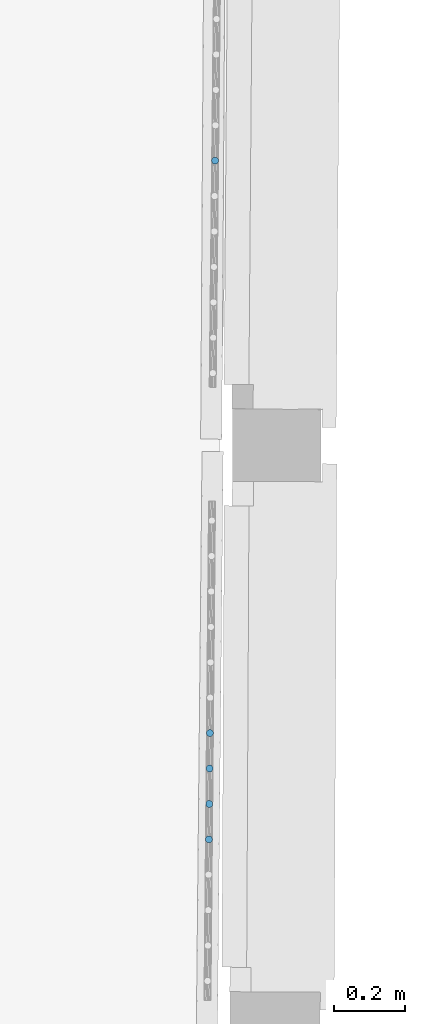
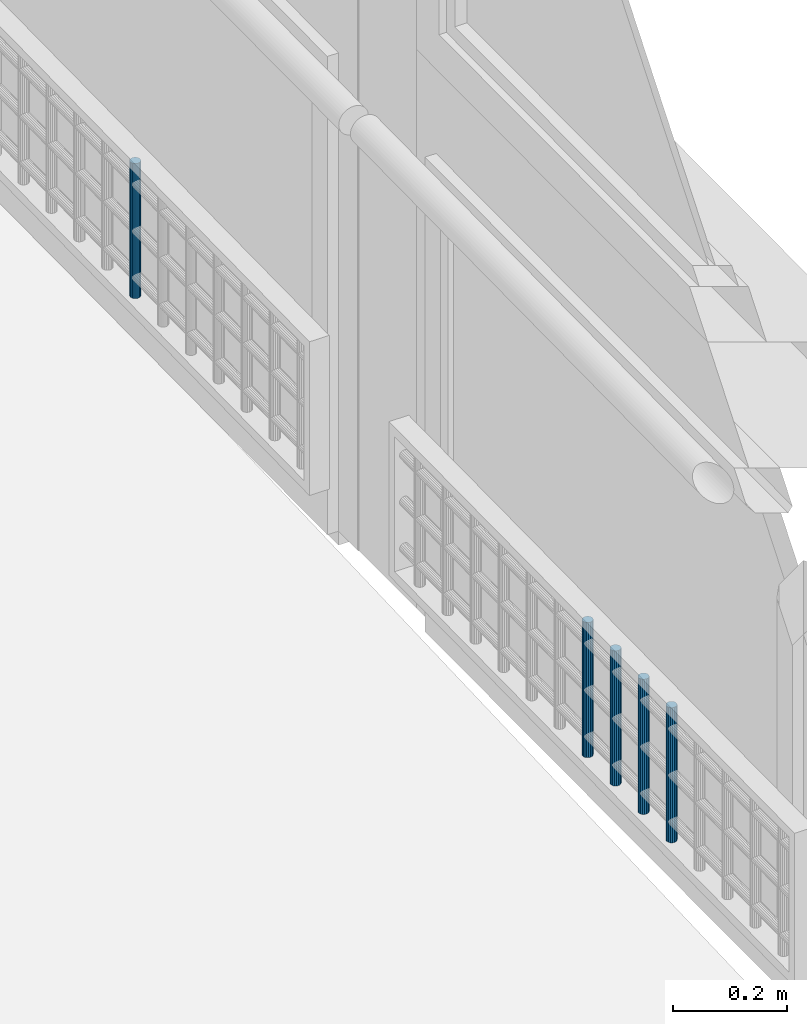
# One storey, part 35 of 97: 5 members, 2 elements without a shape of their own.
"""IFC2X3 building model written with IfcOpenShell, lengths in centimetres."""

from ifc_helpers import new_model, entity, si_unit, converted_unit, direction, frame, origin, origin_with_axes, place, context, subcontext, project, spatial, faceted_brep, material, type_object, element, aggregate, save


model = new_model("IFC2X3")

# Units and contexts
model_context = context("Model", 3, precision=0.0001, world=origin(), true_north=direction((0.225632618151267, 0.974212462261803, 0.0)))
body_context = subcontext(model_context, "Body", "Model", "MODEL_VIEW")
ifc_project = project(units=[si_unit("LENGTHUNIT", "METRE", prefix="CENTI"), si_unit("AREAUNIT", "SQUARE_METRE", prefix="CENTI"), si_unit("VOLUMEUNIT", "CUBIC_METRE", prefix="CENTI"), converted_unit("PLANEANGLEUNIT", "DEGREE", entity("IfcRatioMeasure", 0.0174532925), si_unit("PLANEANGLEUNIT", "RADIAN"), dimensions=[0, 0, 0, 0, 0, 0, 0])], contexts=[model_context])

# Site, building, storey
site_placement = place(None, origin_with_axes())
site = spatial("IfcSite", under=ifc_project, at=site_placement, Name="Default Site", CompositionType="ELEMENT")
building_placement = place(site_placement, origin_with_axes())
building = spatial("IfcBuilding", under=site, at=building_placement, Name="Default Building", CompositionType="ELEMENT")
storey_placement = place(building_placement, origin_with_axes())
storey = spatial("IfcBuildingStorey", under=building, at=storey_placement, Name="Rez-de-chaussée", CompositionType="ELEMENT", Elevation=0.0)

# Assembly, members
building_element_proxy_type = type_object("IfcBuildingElementProxyType", Name="Type Object", PredefinedType="NOTDEFINED")
assembly_1_placement = place(storey_placement, frame((1065.74726462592, -36.1039081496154, 11.9999999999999), z_axis=(0.0, 0.0, 1.0), x_axis=(-0.00922380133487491, -0.999957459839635, 0.0)))
assembly_1 = element("IfcElementAssembly", 1, at=assembly_1_placement, inside=storey, type_object=building_element_proxy_type, Name="Panneau 1702030", ObjectType="Precast panel", PredefinedType="USERDEFINED")
ifc_material = material(Name="Aluminium satiné")
member_1_placement = place(assembly_1_placement, frame((68.4396922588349, 0.342020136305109, 31.0000002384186), z_axis=(0.0, 0.0, 1.0), x_axis=(0.499995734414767, -0.866027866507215, 0.0)))
member_1 = element("IfcMember", 2, at=member_1_placement, material=ifc_material, Name="4294967105", context=body_context, shape_type="Brep", body=[
    faceted_brep([(9.99200722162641e-14, 6.66133814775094e-14, -5.55111512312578e-15), (-0.347295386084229, 0.0, -5.55111512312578e-15), (-0.673647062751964, -0.118784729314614, -5.55111512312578e-15), (-0.939691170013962, -0.342025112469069, -5.55111512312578e-15), (-1.11333888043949, -0.64279519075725, -5.55111512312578e-15), (-1.17364232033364, -0.984811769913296, -5.55111512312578e-15), (-1.11333370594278, -1.32683238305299, -5.55111512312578e-15), (-0.939683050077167, -1.62759729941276, -5.55111512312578e-15), (-0.673637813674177, -1.85083429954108, -5.55111512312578e-15), (-0.347285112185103, -1.96961451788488, -5.55111512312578e-15), (1.027389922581e-05, -1.96961451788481, -5.55111512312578e-15), (0.326361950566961, -1.85082978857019, -5.55111512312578e-15), (0.59240307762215, -1.62759456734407, -5.55111512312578e-15), (0.766050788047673, -1.32682448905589, -5.55111512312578e-15), (0.826357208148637, -0.984802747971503, -5.55111512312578e-15), (0.766048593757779, -0.642782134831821, -5.55111512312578e-15), (0.592397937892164, -0.342017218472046, -5.55111512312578e-15), (0.32635270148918, -0.118780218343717, -5.55111512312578e-15), (0.32635270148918, -0.118780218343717, -29.0000002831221), (0.592397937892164, -0.342017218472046, -29.0000002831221), (0.766048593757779, -0.642782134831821, -29.0000002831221), (0.826357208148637, -0.984802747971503, -29.0000002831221), (0.766050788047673, -1.32682448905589, -29.0000002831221), (0.59240307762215, -1.62759456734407, -29.0000002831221), (0.326361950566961, -1.85082978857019, -29.0000002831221), (1.027389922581e-05, -1.96961451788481, -29.0000002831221), (-0.347285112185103, -1.96961451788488, -29.0000002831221), (-0.673637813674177, -1.85083429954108, -29.0000002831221), (-0.939683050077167, -1.62759729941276, -29.0000002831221), (-1.11333370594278, -1.32683238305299, -29.0000002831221), (-1.17364232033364, -0.984811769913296, -29.0000002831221), (-1.11333888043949, -0.64279519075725, -29.0000002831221), (-0.939691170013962, -0.342025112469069, -29.0000002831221), (-0.673647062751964, -0.118784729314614, -29.0000002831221), (-0.347295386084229, 0.0, -29.0000002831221), (9.99200722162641e-14, 6.66133814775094e-14, -29.0000002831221), (0.592398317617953, -0.34201676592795, -5.55111512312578e-15), (0.592398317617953, -0.34201676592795, -29.0000002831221), (0.766047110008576, -0.642782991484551, -5.55111512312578e-15), (0.766047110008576, -0.642782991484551, -29.0000002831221), (0.826357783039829, -0.984802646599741, -5.55111512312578e-15), (0.826357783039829, -0.984802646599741, -29.0000002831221), (0.766051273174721, -1.32682457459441, -5.55111512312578e-15), (0.766051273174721, -1.32682457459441, -29.0000002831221), (0.592403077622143, -1.62759456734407, -5.55111512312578e-15), (0.592403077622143, -1.62759456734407, -29.0000002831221), (0.326362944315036, -1.8508309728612, -5.55111512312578e-15), (0.326362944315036, -1.8508309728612, -29.0000002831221), (1.0074238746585e-05, -1.96961396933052, -5.55111512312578e-15), (1.0074238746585e-05, -1.96961396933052, -29.0000002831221), (-0.347285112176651, -1.96961623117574, -5.55111512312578e-15), (-0.347285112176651, -1.96961623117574, -29.0000002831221), (-0.673637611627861, -1.85083374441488, -5.55111512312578e-15), (-0.673637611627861, -1.85083374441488, -29.0000002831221), (-0.939683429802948, -1.62759775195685, -5.55111512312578e-15), (-0.939683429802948, -1.62759775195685, -29.0000002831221), (-1.11333222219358, -1.32683152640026, -5.55111512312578e-15), (-1.11333222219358, -1.32683152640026, -29.0000002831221), (-1.17364289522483, -0.984811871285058, -5.55111512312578e-15), (-1.17364289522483, -0.984811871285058, -29.0000002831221), (-1.11333735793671, -0.642795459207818, -5.55111512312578e-15), (-1.11333735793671, -0.642795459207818, -29.0000002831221), (-0.939691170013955, -0.342025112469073, -5.55111512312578e-15), (-0.939691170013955, -0.342025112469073, -29.0000002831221), (-0.673646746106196, -0.11878510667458, -5.55111512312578e-15), (-0.673646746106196, -0.11878510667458, -29.0000002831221), (-0.347295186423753, -5.4855428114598e-07, -5.55111512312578e-15), (-0.347295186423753, -5.4855428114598e-07, -29.0000002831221), (-8.35215214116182e-12, 1.71329092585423e-06, -5.55111512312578e-15), (-8.35215214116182e-12, 1.71329092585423e-06, -29.0000002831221), (0.32635249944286, -0.118780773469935, -5.55111512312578e-15), (0.32635249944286, -0.118780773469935, -29.0000002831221)], [[[0, 1, 2, 3, 4, 5, 6, 7, 8, 9, 10, 11, 12, 13, 14, 15, 16, 17]], [[18, 19, 20, 21, 22, 23, 24, 25, 26, 27, 28, 29, 30, 31, 32, 33, 34, 35]], [[17, 36, 37, 18]], [[16, 38, 39, 19]], [[15, 40, 41, 20]], [[14, 42, 43, 21]], [[13, 44, 45, 22]], [[12, 46, 47, 23]], [[11, 48, 49, 24]], [[10, 50, 51, 25]], [[9, 52, 53, 26]], [[8, 54, 55, 27]], [[7, 56, 57, 28]], [[6, 58, 59, 29]], [[5, 60, 61, 30]], [[4, 62, 63, 31]], [[3, 64, 65, 32]], [[2, 66, 67, 33]], [[1, 68, 69, 34]], [[0, 70, 71, 35]]]),
])
member_2_placement = place(assembly_1_placement, frame((78.4396946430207, 0.342020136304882, 31.0000002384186), z_axis=(0.0, 0.0, 1.0), x_axis=(0.500008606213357, -0.866020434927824, 0.0)))
member_2 = element("IfcMember", 3, at=member_2_placement, material=ifc_material, Name="4294967104", context=body_context, shape_type="Brep", body=[
    faceted_brep([(1.83186799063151e-13, 2.22044604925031e-14, -5.55111512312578e-15), (-0.347298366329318, -1.11022302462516e-14, -5.55111512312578e-15), (-0.673651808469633, -0.118779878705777, -5.55111512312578e-15), (-0.939696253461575, -0.342011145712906, -5.55111512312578e-15), (-1.11334843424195, -0.642778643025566, -5.55111512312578e-15), (-1.17365993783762, -0.984799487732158, -5.55111512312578e-15), (-1.11335640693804, -1.32682099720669, -5.55111512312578e-15), (-0.939710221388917, -1.62758849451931, -5.55111512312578e-15), (-0.673668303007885, -1.8508294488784, -5.55111512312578e-15), (-0.347317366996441, -1.96961451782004, -5.55111512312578e-15), (-2.19809504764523e-05, -1.96961967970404, -5.55111512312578e-15), (0.326331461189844, -1.85083980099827, -5.55111512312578e-15), (0.592378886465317, -1.62760337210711, -5.55111512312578e-15), (0.766031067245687, -1.32683587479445, -5.55111512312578e-15), (0.826339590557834, -0.984820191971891, -5.55111512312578e-15), (0.766036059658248, -0.642798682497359, -5.55111512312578e-15), (0.592392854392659, -0.342026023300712, -5.55111512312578e-15), (0.326350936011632, -0.118785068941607, -5.55111512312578e-15), (0.326350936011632, -0.118785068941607, -29.0000002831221), (0.592392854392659, -0.342026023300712, -29.0000002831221), (0.766036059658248, -0.642798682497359, -29.0000002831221), (0.826339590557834, -0.984820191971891, -29.0000002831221), (0.766031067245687, -1.32683587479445, -29.0000002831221), (0.592378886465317, -1.62760337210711, -29.0000002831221), (0.326331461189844, -1.85083980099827, -29.0000002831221), (-2.19809504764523e-05, -1.96961967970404, -29.0000002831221), (-0.347317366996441, -1.96961451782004, -29.0000002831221), (-0.673668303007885, -1.8508294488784, -29.0000002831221), (-0.939710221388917, -1.62758849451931, -29.0000002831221), (-1.11335640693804, -1.32682099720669, -29.0000002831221), (-1.17365993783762, -0.984799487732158, -29.0000002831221), (-1.11334843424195, -0.642778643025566, -29.0000002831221), (-0.939696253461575, -0.342011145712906, -29.0000002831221), (-0.673651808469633, -0.118779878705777, -29.0000002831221), (-0.347298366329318, -1.11022302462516e-14, -29.0000002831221), (1.83186799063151e-13, 2.22044604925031e-14, -29.0000002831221), (0.592393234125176, -0.342025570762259, -5.55111512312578e-15), (0.592393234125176, -0.342025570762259, -29.0000002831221), (0.766039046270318, -0.64279695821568, -5.55111512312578e-15), (0.766039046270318, -0.64279695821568, -29.0000002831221), (0.82634016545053, -0.984820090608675, -5.55111512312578e-15), (0.82634016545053, -0.984820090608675, -29.0000002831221), (0.766029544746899, -1.32683560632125, -5.55111512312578e-15), (0.766029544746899, -1.32683560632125, -29.0000002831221), (0.592378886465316, -1.62760337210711, -5.55111512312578e-15), (0.592378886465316, -1.62760337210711, -29.0000002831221), (0.32633114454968, -1.85083942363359, -5.55111512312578e-15), (0.32633114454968, -1.85083942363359, -29.0000002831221), (-2.21806028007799e-05, -1.96961913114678, -5.55111512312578e-15), (-2.21806028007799e-05, -1.96961913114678, -29.0000002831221), (-0.347317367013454, -1.9696162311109, -5.55111512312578e-15), (-0.347317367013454, -1.9696162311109, -29.0000002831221), (-0.673668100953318, -1.8508288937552, -5.55111512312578e-15), (-0.673668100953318, -1.8508288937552, -29.0000002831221), (-0.939710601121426, -1.62758894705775, -5.55111512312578e-15), (-0.939710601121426, -1.62758894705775, -29.0000002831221), (-1.11335492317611, -1.32682014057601, -5.55111512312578e-15), (-1.11335492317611, -1.32682014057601, -29.0000002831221), (-1.17366051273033, -0.984799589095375, -5.55111512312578e-15), (-1.17366051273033, -0.984799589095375, -29.0000002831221), (-1.11334891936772, -0.642778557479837, -5.55111512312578e-15), (-1.11334891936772, -0.642778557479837, -29.0000002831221), (-0.939696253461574, -0.342011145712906, -5.55111512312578e-15), (-0.939696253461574, -0.342011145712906, -29.0000002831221), (-0.673652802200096, -0.118778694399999, -5.55111512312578e-15), (-0.673652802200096, -0.118778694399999, -29.0000002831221), (-0.347298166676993, -5.48557266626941e-07, -5.55111512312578e-15), (-0.347298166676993, -5.48557266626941e-07, -29.0000002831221), (-3.4061140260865e-11, -3.44862274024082e-06, -5.55111512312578e-15), (-3.4061140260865e-11, -3.44862274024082e-06, -29.0000002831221), (0.326350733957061, -0.118785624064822, -5.55111512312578e-15), (0.326350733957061, -0.118785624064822, -29.0000002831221)], [[[0, 1, 2, 3, 4, 5, 6, 7, 8, 9, 10, 11, 12, 13, 14, 15, 16, 17]], [[18, 19, 20, 21, 22, 23, 24, 25, 26, 27, 28, 29, 30, 31, 32, 33, 34, 35]], [[17, 36, 37, 18]], [[16, 38, 39, 19]], [[15, 40, 41, 20]], [[14, 42, 43, 21]], [[13, 44, 45, 22]], [[12, 46, 47, 23]], [[11, 48, 49, 24]], [[10, 50, 51, 25]], [[9, 52, 53, 26]], [[8, 54, 55, 27]], [[7, 56, 57, 28]], [[6, 58, 59, 29]], [[5, 60, 61, 30]], [[4, 62, 63, 31]], [[3, 64, 65, 32]], [[2, 66, 67, 33]], [[1, 68, 69, 34]], [[0, 70, 71, 35]]]),
])
member_3_placement = place(assembly_1_placement, frame((88.439691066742, 0.342020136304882, 31.0000002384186), z_axis=(0.0, 0.0, 1.0), x_axis=(0.499995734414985, -0.86602786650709, 0.0)))
member_3 = element("IfcMember", 4, at=member_3_placement, material=ifc_material, Name="4294967103", context=body_context, shape_type="Brep", body=[
    faceted_brep([(4.9960036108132e-14, 1.11022302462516e-14, 5.55111512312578e-15), (-0.347295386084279, 3.33066907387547e-14, 5.55111512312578e-15), (-0.673647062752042, -0.118784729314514, 5.55111512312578e-15), (-0.939691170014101, -0.342025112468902, 5.55111512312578e-15), (-1.11333590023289, -0.642790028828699, 5.55111512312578e-15), (-1.17364232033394, -0.984811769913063, 5.55111512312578e-15), (-1.11333370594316, -1.32683238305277, 5.55111512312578e-15), (-0.939683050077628, -1.62759729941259, 5.55111512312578e-15), (-0.673637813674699, -1.85083429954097, 5.55111512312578e-15), (-0.347285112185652, -1.96961451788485, 5.55111512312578e-15), (1.02738986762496e-05, -1.96961451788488, 5.55111512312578e-15), (0.326361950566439, -1.85082978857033, 5.55111512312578e-15), (0.592406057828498, -1.62758940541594, 5.55111512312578e-15), (0.76605078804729, -1.32682448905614, 5.55111512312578e-15), (0.826357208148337, -0.98480274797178, 5.55111512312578e-15), (0.766048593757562, -0.642782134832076, 5.55111512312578e-15), (0.592397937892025, -0.342017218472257, 5.55111512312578e-15), (0.326352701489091, -0.118780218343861, 5.55111512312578e-15), (0.326352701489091, -0.118780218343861, -29.0000002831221), (0.592397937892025, -0.342017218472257, -29.0000002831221), (0.766048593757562, -0.642782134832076, -29.0000002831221), (0.826357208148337, -0.98480274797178, -29.0000002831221), (0.76605078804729, -1.32682448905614, -29.0000002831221), (0.592406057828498, -1.62758940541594, -29.0000002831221), (0.326361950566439, -1.85082978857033, -29.0000002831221), (1.02738986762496e-05, -1.96961451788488, -29.0000002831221), (-0.347285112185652, -1.96961451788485, -29.0000002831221), (-0.673637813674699, -1.85083429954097, -29.0000002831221), (-0.939683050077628, -1.62759729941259, -29.0000002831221), (-1.11333370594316, -1.32683238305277, -29.0000002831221), (-1.17364232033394, -0.984811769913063, -29.0000002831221), (-1.11333590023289, -0.642790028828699, -29.0000002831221), (-0.939691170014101, -0.342025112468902, -29.0000002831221), (-0.673647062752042, -0.118784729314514, -29.0000002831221), (-0.347295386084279, 3.33066907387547e-14, -29.0000002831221), (4.9960036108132e-14, 1.11022302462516e-14, -29.0000002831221), (0.592398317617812, -0.342016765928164, 5.55111512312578e-15), (0.592398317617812, -0.342016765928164, -29.0000002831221), (0.766047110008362, -0.642782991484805, 5.55111512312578e-15), (0.766047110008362, -0.642782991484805, -29.0000002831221), (0.826357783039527, -0.984802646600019, 5.55111512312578e-15), (0.826357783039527, -0.984802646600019, -29.0000002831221), (0.766051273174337, -1.32682457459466, 5.55111512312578e-15), (0.766051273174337, -1.32682457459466, -29.0000002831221), (0.592406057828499, -1.62758940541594, 5.55111512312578e-15), (0.592406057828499, -1.62758940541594, -29.0000002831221), (0.326361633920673, -1.85082941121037, 5.55111512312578e-15), (0.326361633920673, -1.85082941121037, -29.0000002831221), (1.00742381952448e-05, -1.96961396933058, 5.55111512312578e-15), (1.00742381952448e-05, -1.96961396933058, -29.0000002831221), (-0.3472851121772, -1.96961623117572, 5.55111512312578e-15), (-0.3472851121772, -1.96961623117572, -29.0000002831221), (-0.673637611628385, -1.85083374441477, 5.55111512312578e-15), (-0.673637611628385, -1.85083374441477, -29.0000002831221), (-0.939683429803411, -1.62759775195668, 5.55111512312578e-15), (-0.939683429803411, -1.62759775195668, -29.0000002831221), (-1.11333222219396, -1.32683152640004, 5.55111512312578e-15), (-1.11333222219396, -1.32683152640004, -29.0000002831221), (-1.17364289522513, -0.984811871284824, 5.55111512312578e-15), (-1.17364289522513, -0.984811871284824, -29.0000002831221), (-1.11333638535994, -0.642789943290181, 5.55111512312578e-15), (-1.11333638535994, -0.642789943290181, -29.0000002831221), (-0.939691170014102, -0.342025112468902, 5.55111512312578e-15), (-0.939691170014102, -0.342025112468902, -29.0000002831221), (-0.673646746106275, -0.118785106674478, 5.55111512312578e-15), (-0.673646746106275, -0.118785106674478, -29.0000002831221), (-0.347295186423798, -5.48554262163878e-07, 5.55111512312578e-15), (-0.347295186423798, -5.48554262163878e-07, -29.0000002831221), (-8.40211175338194e-12, 1.71329087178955e-06, 5.55111512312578e-15), (-8.40211175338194e-12, 1.71329087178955e-06, -29.0000002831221), (0.326352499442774, -0.118780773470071, 5.55111512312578e-15), (0.326352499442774, -0.118780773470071, -29.0000002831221)], [[[0, 1, 2, 3, 4, 5, 6, 7, 8, 9, 10, 11, 12, 13, 14, 15, 16, 17]], [[18, 19, 20, 21, 22, 23, 24, 25, 26, 27, 28, 29, 30, 31, 32, 33, 34, 35]], [[17, 36, 37, 18]], [[16, 38, 39, 19]], [[15, 40, 41, 20]], [[14, 42, 43, 21]], [[13, 44, 45, 22]], [[12, 46, 47, 23]], [[11, 48, 49, 24]], [[10, 50, 51, 25]], [[9, 52, 53, 26]], [[8, 54, 55, 27]], [[7, 56, 57, 28]], [[6, 58, 59, 29]], [[5, 60, 61, 30]], [[4, 62, 63, 31]], [[3, 64, 65, 32]], [[2, 66, 67, 33]], [[1, 68, 69, 34]], [[0, 70, 71, 35]]]),
])
member_4_placement = place(assembly_1_placement, frame((98.4396934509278, 0.342020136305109, 31.0000002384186), z_axis=(0.0, 0.0, 1.0), x_axis=(0.499995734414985, -0.86602786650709, 0.0)))
member_4 = element("IfcMember", 5, at=member_4_placement, material=ifc_material, Name="4294967102", context=body_context, shape_type="Brep", body=[
    faceted_brep([(2.55351295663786e-13, 3.33066907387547e-14, 5.55111512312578e-15), (-0.347295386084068, 5.55111512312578e-14, 5.55111512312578e-15), (-0.673647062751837, -0.118784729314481, 5.55111512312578e-15), (-0.939691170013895, -0.342025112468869, 5.55111512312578e-15), (-1.1133388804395, -0.642795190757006, 5.55111512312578e-15), (-1.17364232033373, -0.984811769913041, 5.55111512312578e-15), (-1.11333370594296, -1.32683238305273, 5.55111512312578e-15), (-0.939686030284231, -1.62760246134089, 5.55111512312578e-15), (-0.673640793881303, -1.85083946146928, 5.55111512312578e-15), (-0.347288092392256, -1.96961967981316, 5.55111512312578e-15), (1.02738988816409e-05, -1.96961451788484, 5.55111512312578e-15), (0.32636195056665, -1.85082978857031, 5.55111512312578e-15), (0.592403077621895, -1.62759456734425, 5.55111512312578e-15), (0.766050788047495, -1.32682448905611, 5.55111512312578e-15), (0.826357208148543, -0.984802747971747, 5.55111512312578e-15), (0.766048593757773, -0.642782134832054, 5.55111512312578e-15), (0.592397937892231, -0.342017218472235, 5.55111512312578e-15), (0.326352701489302, -0.118780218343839, 5.55111512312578e-15), (0.326352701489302, -0.118780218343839, -29.0000002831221), (0.592397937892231, -0.342017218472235, -29.0000002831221), (0.766048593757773, -0.642782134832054, -29.0000002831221), (0.826357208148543, -0.984802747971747, -29.0000002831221), (0.766050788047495, -1.32682448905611, -29.0000002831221), (0.592403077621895, -1.62759456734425, -29.0000002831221), (0.32636195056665, -1.85082978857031, -29.0000002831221), (1.02738988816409e-05, -1.96961451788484, -29.0000002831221), (-0.347288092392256, -1.96961967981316, -29.0000002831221), (-0.673640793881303, -1.85083946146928, -29.0000002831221), (-0.939686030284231, -1.62760246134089, -29.0000002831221), (-1.11333370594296, -1.32683238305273, -29.0000002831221), (-1.17364232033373, -0.984811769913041, -29.0000002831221), (-1.1133388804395, -0.642795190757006, -29.0000002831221), (-0.939691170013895, -0.342025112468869, -29.0000002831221), (-0.673647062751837, -0.118784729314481, -29.0000002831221), (-0.347295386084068, 5.55111512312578e-14, -29.0000002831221), (2.55351295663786e-13, 3.33066907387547e-14, -29.0000002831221), (0.59239831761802, -0.342016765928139, 5.55111512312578e-15), (0.59239831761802, -0.342016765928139, -29.0000002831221), (0.766047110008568, -0.642782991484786, 5.55111512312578e-15), (0.766047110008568, -0.642782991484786, -29.0000002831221), (0.826357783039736, -0.984802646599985, 5.55111512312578e-15), (0.826357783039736, -0.984802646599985, -29.0000002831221), (0.766051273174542, -1.32682457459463, 5.55111512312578e-15), (0.766051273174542, -1.32682457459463, -29.0000002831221), (0.59240307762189, -1.62759456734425, 5.55111512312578e-15), (0.59240307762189, -1.62759456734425, -29.0000002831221), (0.326362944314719, -1.85083097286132, 5.55111512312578e-15), (0.326362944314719, -1.85083097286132, -29.0000002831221), (1.00742384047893e-05, -1.96961396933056, 5.55111512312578e-15), (1.00742384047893e-05, -1.96961396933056, -29.0000002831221), (-0.347288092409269, -1.96961623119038, 5.55111512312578e-15), (-0.347288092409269, -1.96961623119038, -29.0000002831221), (-0.673640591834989, -1.85083890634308, 5.55111512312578e-15), (-0.673640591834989, -1.85083890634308, -29.0000002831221), (-0.939686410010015, -1.62760291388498, 5.55111512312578e-15), (-0.939686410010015, -1.62760291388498, -29.0000002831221), (-1.1133366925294, -1.3268341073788, 5.55111512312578e-15), (-1.1133366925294, -1.3268341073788, -29.0000002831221), (-1.17364289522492, -0.984811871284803, 5.55111512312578e-15), (-1.17364289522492, -0.984811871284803, -29.0000002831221), (-1.11333735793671, -0.642795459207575, 5.55111512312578e-15), (-1.11333735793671, -0.642795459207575, -29.0000002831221), (-0.93969117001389, -0.342025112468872, 5.55111512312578e-15), (-0.93969117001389, -0.342025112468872, -29.0000002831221), (-0.67364674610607, -0.118785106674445, 5.55111512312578e-15), (-0.67364674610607, -0.118785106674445, -29.0000002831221), (-0.347295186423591, -5.48554228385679e-07, 5.55111512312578e-15), (-0.347295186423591, -5.48554228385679e-07, -29.0000002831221), (-8.19672049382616e-12, 1.71329089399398e-06, 5.55111512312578e-15), (-8.19672049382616e-12, 1.71329089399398e-06, -29.0000002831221), (0.326352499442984, -0.11878077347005, 5.55111512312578e-15), (0.326352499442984, -0.11878077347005, -29.0000002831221)], [[[0, 1, 2, 3, 4, 5, 6, 7, 8, 9, 10, 11, 12, 13, 14, 15, 16, 17]], [[18, 19, 20, 21, 22, 23, 24, 25, 26, 27, 28, 29, 30, 31, 32, 33, 34, 35]], [[17, 36, 37, 18]], [[16, 38, 39, 19]], [[15, 40, 41, 20]], [[14, 42, 43, 21]], [[13, 44, 45, 22]], [[12, 46, 47, 23]], [[11, 48, 49, 24]], [[10, 50, 51, 25]], [[9, 52, 53, 26]], [[8, 54, 55, 27]], [[7, 56, 57, 28]], [[6, 58, 59, 29]], [[5, 60, 61, 30]], [[4, 62, 63, 31]], [[3, 64, 65, 32]], [[2, 66, 67, 33]], [[1, 68, 69, 34]], [[0, 70, 71, 35]]]),
])
aggregate(assembly_1, [member_1, member_2, member_3, member_4])

# Assembly, member
assembly_2_placement = place(storey_placement, frame((1067.41070761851, 134.057314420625, 12.0), z_axis=(0.0, 0.0, 1.0), x_axis=(-0.0108104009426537, -0.999941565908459, 0.0)))
assembly_2 = element("IfcElementAssembly", 6, at=assembly_2_placement, inside=storey, type_object=building_element_proxy_type, Name="Panneau 1702033", ObjectType="Precast panel", PredefinedType="USERDEFINED")
member_5_placement = place(assembly_2_placement, frame((76.9396901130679, 0.342020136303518, 31.0000002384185), z_axis=(0.0, 0.0, 1.0), x_axis=(0.499995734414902, -0.866027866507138, 0.0)))
member_5 = element("IfcMember", 7, at=member_5_placement, material=ifc_material, Name="4294967086", context=body_context, shape_type="Brep", body=[
    faceted_brep([(-1.11022302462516e-12, 5.32907051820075e-13, 4.9960036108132e-14), (-0.347295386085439, 5.21804821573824e-13, 4.9960036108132e-14), (-0.673647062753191, -0.118784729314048, 4.9960036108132e-14), (-0.939691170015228, -0.342025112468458, 4.9960036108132e-14), (-1.11333590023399, -0.642790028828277, 4.9960036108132e-14), (-1.17364232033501, -0.984811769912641, 4.9960036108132e-14), (-1.1133337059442, -1.32683238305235, 4.9960036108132e-14), (-0.939683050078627, -1.62759729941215, 4.9960036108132e-14), (-0.673637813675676, -1.85083429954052, 4.9960036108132e-14), (-0.347285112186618, -1.96961451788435, 4.9960036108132e-14), (1.02738977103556e-05, -1.96961451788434, 4.9960036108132e-14), (0.326361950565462, -1.85082978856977, 4.9960036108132e-14), (0.592406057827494, -1.62758940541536, 4.9960036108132e-14), (0.766050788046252, -1.32682448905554, 4.9960036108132e-14), (0.826357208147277, -0.984802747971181, 4.9960036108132e-14), (0.766048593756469, -0.642782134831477, 4.9960036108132e-14), (0.592397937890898, -0.342017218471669, 4.9960036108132e-14), (0.326352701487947, -0.118780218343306, 4.9960036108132e-14), (0.326352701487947, -0.118780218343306, -29.000000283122), (0.592397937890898, -0.342017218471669, -29.000000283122), (0.766048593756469, -0.642782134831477, -29.000000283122), (0.826357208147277, -0.984802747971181, -29.000000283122), (0.766050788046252, -1.32682448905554, -29.000000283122), (0.592406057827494, -1.62758940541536, -29.000000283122), (0.326361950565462, -1.85082978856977, -29.000000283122), (1.02738977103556e-05, -1.96961451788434, -29.000000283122), (-0.347285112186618, -1.96961451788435, -29.000000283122), (-0.673637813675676, -1.85083429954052, -29.000000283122), (-0.939683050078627, -1.62759729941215, -29.000000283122), (-1.1133337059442, -1.32683238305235, -29.000000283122), (-1.17364232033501, -0.984811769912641, -29.000000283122), (-1.11333590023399, -0.642790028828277, -29.000000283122), (-0.939691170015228, -0.342025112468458, -29.000000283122), (-0.673647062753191, -0.118784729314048, -29.000000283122), (-0.347295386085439, 5.21804821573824e-13, -29.000000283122), (-1.11022302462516e-12, 5.32907051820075e-13, -29.000000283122), (0.592398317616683, -0.342016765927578, 4.9960036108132e-14), (0.592398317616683, -0.342016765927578, -29.000000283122), (0.766047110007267, -0.642782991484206, 4.9960036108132e-14), (0.766047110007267, -0.642782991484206, -29.000000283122), (0.826357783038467, -0.98480264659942, 4.9960036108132e-14), (0.826357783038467, -0.98480264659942, -29.000000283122), (0.76605127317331, -1.32682457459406, 4.9960036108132e-14), (0.76605127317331, -1.32682457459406, -29.000000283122), (0.592406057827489, -1.62758940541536, 4.9960036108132e-14), (0.592406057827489, -1.62758940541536, -29.000000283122), (0.326361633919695, -1.85082941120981, 4.9960036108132e-14), (0.326361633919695, -1.85082941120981, -29.000000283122), (1.0074237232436e-05, -1.96961396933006, 4.9960036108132e-14), (1.0074237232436e-05, -1.96961396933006, -29.000000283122), (-0.347285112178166, -1.96961623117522, 4.9960036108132e-14), (-0.347285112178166, -1.96961623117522, -29.000000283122), (-0.673637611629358, -1.8508337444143, 4.9960036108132e-14), (-0.673637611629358, -1.8508337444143, -29.000000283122), (-0.939683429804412, -1.62759775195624, 4.9960036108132e-14), (-0.939683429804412, -1.62759775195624, -29.000000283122), (-1.113332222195, -1.32683152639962, 4.9960036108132e-14), (-1.113332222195, -1.32683152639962, -29.000000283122), (-1.1736428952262, -0.984811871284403, 4.9960036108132e-14), (-1.1736428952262, -0.984811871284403, -29.000000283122), (-1.11333638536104, -0.642789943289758, 4.9960036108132e-14), (-1.11333638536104, -0.642789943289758, -29.000000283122), (-0.939691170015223, -0.342025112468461, 4.9960036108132e-14), (-0.939691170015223, -0.342025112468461, -29.000000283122), (-0.673646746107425, -0.11878510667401, 4.9960036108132e-14), (-0.673646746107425, -0.11878510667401, -29.000000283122), (-0.347295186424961, -5.48553765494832e-07, 4.9960036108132e-14), (-0.347295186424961, -5.48553765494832e-07, -29.000000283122), (-9.56229497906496e-12, 1.71329139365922e-06, 4.9960036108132e-14), (-9.56229497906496e-12, 1.71329139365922e-06, -29.000000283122), (0.326352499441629, -0.118780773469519, 4.9960036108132e-14), (0.326352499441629, -0.118780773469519, -29.000000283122)], [[[0, 1, 2, 3, 4, 5, 6, 7, 8, 9, 10, 11, 12, 13, 14, 15, 16, 17]], [[18, 19, 20, 21, 22, 23, 24, 25, 26, 27, 28, 29, 30, 31, 32, 33, 34, 35]], [[17, 36, 37, 18]], [[16, 38, 39, 19]], [[15, 40, 41, 20]], [[14, 42, 43, 21]], [[13, 44, 45, 22]], [[12, 46, 47, 23]], [[11, 48, 49, 24]], [[10, 50, 51, 25]], [[9, 52, 53, 26]], [[8, 54, 55, 27]], [[7, 56, 57, 28]], [[6, 58, 59, 29]], [[5, 60, 61, 30]], [[4, 62, 63, 31]], [[3, 64, 65, 32]], [[2, 66, 67, 33]], [[1, 68, 69, 34]], [[0, 70, 71, 35]]]),
])
aggregate(assembly_2, [member_5])

save(model, "model.ifc")
